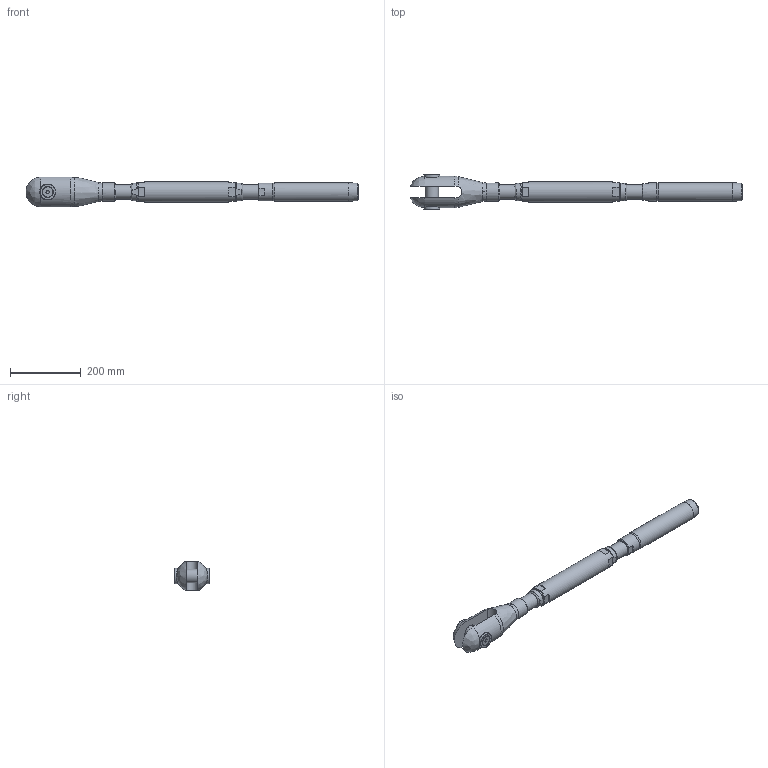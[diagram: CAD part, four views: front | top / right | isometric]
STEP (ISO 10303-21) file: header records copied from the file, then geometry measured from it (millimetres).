
FILE_DESCRIPTION(/* description */ (''),/* implementation_level */ '2;1');
FILE_NAME(/* name */ 'TBC 28_42CrMo4',/* time_stamp */ '2023-05-23T18:16:45+02:00',/* author */ (''),/* organization */ (''),/* preprocessor_version */ 'ST-DEVELOPER v16.5',/* originating_system */ 'Rhino 7.22',/* authorisation */ '');
FILE_SCHEMA (('CONFIG_CONTROL_DESIGN'));
Length unit declared in the file: millimetre
Products named in the file (1): Document
Bounding box: 936.49 x 97.5 x 83.05 mm (x, y, z)
Volume: 2182658.2 mm3; surface area: 301607.7 mm2
Topology: 10 solids, 10 shells, 143 faces, 390 edges, 269 vertices
Faces by surface type: plane 65, bspline 43, cylinder 35
Full cylindrical faces by diameter (mm): 13.835 x2, 16 x2, 17 x2, 29.01 x2, 38 x1, 38.752 x4, 40 x2, 42 x2, 44 x2, 46 x1, 50.8 x2, 53.4 x1, 57 x1
Entity records: 6072 total; most frequent: CARTESIAN_POINT 3606, ORIENTED_EDGE 772, EDGE_CURVE 386, VERTEX_POINT 269, EDGE_LOOP 163, B_SPLINE_CURVE_WITH_KNOTS 160, ADVANCED_FACE 143, FACE_OUTER_BOUND 143
